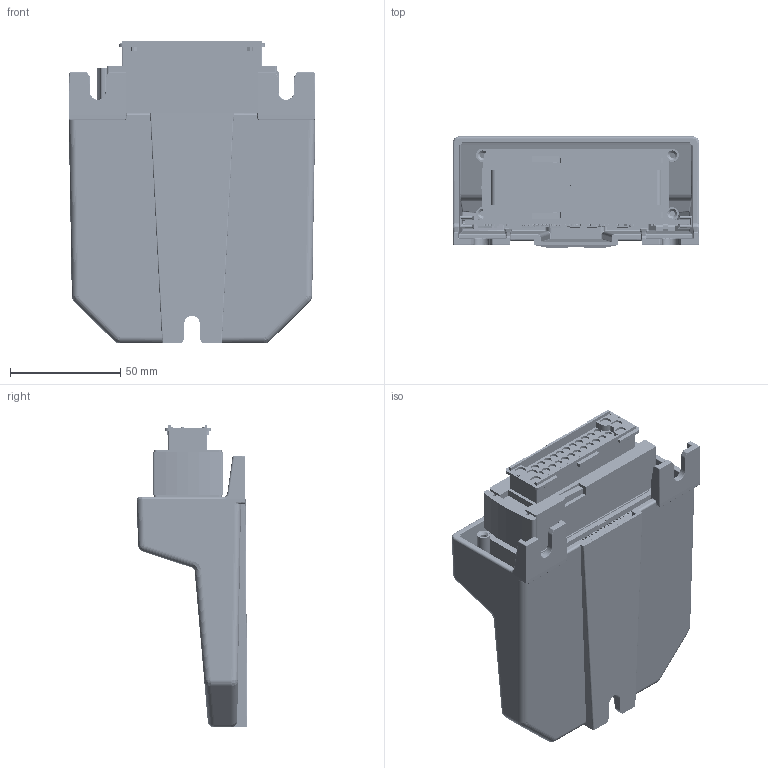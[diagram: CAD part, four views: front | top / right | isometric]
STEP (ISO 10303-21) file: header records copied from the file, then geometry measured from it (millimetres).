
FILE_DESCRIPTION((''),'2;1');
FILE_NAME('ECU-WEIDEMANN_ASM','2019-08-01T',('Lorenzo Iotti'),(''),'PRO/ENGINEER BY PARAMETRIC TECHNOLOGY CORPORATION, 2013410','PRO/ENGINEER BY PARAMETRIC TECHNOLOGY CORPORATION, 2013410','');
FILE_SCHEMA(('CONFIG_CONTROL_DESIGN'));
Products named in the file (34): SCATOLA; BOARD_PART; R82; R48; DZ26; RR10; FT4; R169; U25; U30; D2; D29; U24; D30; U22; U21; U16; DZ34; TP1; U14; D4; DZ24; CN1; DL1; Y1; U1; L1; FID4; C85; PARTS_ASM; CABIN_CONTROLLER_NEW_PCB_ASM; SCHEDA_CABIN_CONTROLLER_ASM; MANIFOLD_SOLID_BREP_130665; ECU-WEIDEMANN_ASM
Assembly tree (272 placements, depth 5):
  ECU-WEIDEMANN_ASM
    SCATOLA
    SCHEDA_CABIN_CONTROLLER_ASM
      CABIN_CONTROLLER_NEW_PCB_ASM
        PARTS_ASM
          BOARD_PART
          R82  x104
          R48  x15
          DZ26  x8
          RR10  x9
          FT4  x2
          R169  x49
          U25  x5
          U30
          D2  x17
          D29
          U24
          D30
          U22  x2
          U21  x3
          U16  x2
          DZ34  x8
          TP1  x6
          U14
          D4  x2
          DZ24  x4
          CN1
          DL1
          Y1
          U1
          L1
          FID4  x6
          C85  x14
    MANIFOLD_SOLID_BREP_130665
Bounding box: 111.96 x 50.37 x 137.5 mm (x, y, z)
Volume: 191445.5 mm3; surface area: 132263.9 mm2
Topology: 269 solids, 270 shells, 23299 faces, 57234 edges, 33346 vertices
Faces by surface type: plane 11836, cylinder 7858, sphere 1686, torus 1252, extrusion 445, bspline 164, cone 58
Entity records: 281680 total; most frequent: CARTESIAN_POINT 63722, ORIENTED_EDGE 45490, DIRECTION 44101, EDGE_CURVE 22745, VECTOR 17131, LINE 16988, VERTEX_POINT 14923, AXIS2_PLACEMENT_3D 13485
